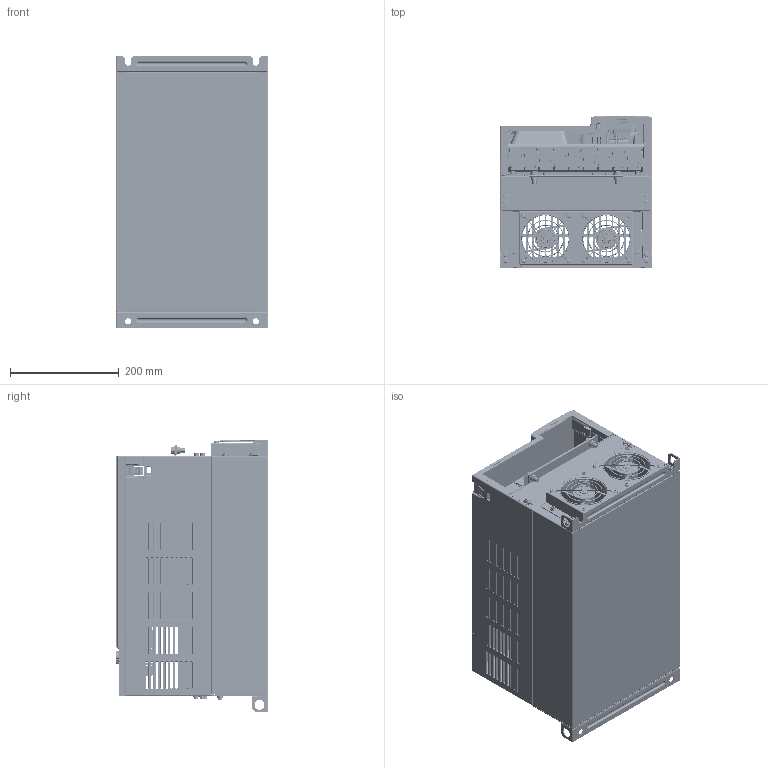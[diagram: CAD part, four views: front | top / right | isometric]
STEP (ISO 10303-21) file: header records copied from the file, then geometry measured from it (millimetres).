
FILE_DESCRIPTION((''),'2;1');
FILE_NAME('VFD-MH300-H-PD-3D00_ASM','2023-12-27T09:16:15',('EDWARD.LIAO'),(''),'CREO PARAMETRIC BY PTC INC, 2022162','CREO PARAMETRIC BY PTC INC, 2022162','');
FILE_SCHEMA(('AUTOMOTIVE_DESIGN { 1 0 10303 214 1 1 1 1 }'));
Products named in the file (119): MH300-FRAME-H_ASM_3_1; MH300-FRAME-H_ASM_4_1; MH300-FRAME-H_ASM_5_1; MH300-FRAME-H_ASM_6_1; MH300-FRAME-H_ASM_7_1; MH300-FRAME-H_ASM_8_1; MH300-FRAME-H_ASM_9_1; MH300-FRAME-H_ASM_10_1; MH300-FRAME-H_ASM_11_1; MH300-FRAME-H_ASM_12_1; MH300-FRAME-H_ASM_13_1; MH300-FRAME-H_ASM_14_1; MH300-FRAME-H_ASM_17_1; MH300-FRAME-H_ASM_18_1; MH300-FRAME-H_ASM_19_1; MH300-FRAME-H_ASM_20_1; MH300-FRAME-H_ASM_21_1; MH300-FRAME-H_ASM_22_1; MH300-FRAME-H_ASM_23_1; MH300-FRAME-H_ASM_24_1; MH300-FRAME-H_ASM_25_1; MH300-FRAME-H_ASM_26_1; MH300-FRAME-H_ASM_27_1; MH300-FRAME-H_ASM_28_1; MH300-FRAME-H_ASM_29_1; MH300-FRAME-H_ASM_30_1; MH300-FRAME-H_ASM_31_1; MH300-FRAME-H_ASM_32_1; MH300-FRAME-H_ASM_33_1; MH300-FRAME-H_ASM_34_1; MH300-FRAME-H_ASM_35_1; MH300-FRAME-H_ASM_36_1; MH300-FRAME-H_ASM_37_1; MH300-FRAME-H_ASM_39_1; MH300-FRAME-H_ASM_40_1; MH300-FRAME-H_ASM_41_1; MH300-FRAME-H_ASM_42_1; MH300-FRAME-H_ASM_43_1; MH300-FRAME-H_ASM_44_1_1; MH300-FRAME-H_ASM_44_1_2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
Assembly tree (118 placements, depth 4):
  VFD-MH300-H-PD-3D00_ASM
    CAD0000911276_ASM_1_ASM
      MH300-FRAME-H_ASM_3_1
      MH300-FRAME-H_ASM_4_1
      MH300-FRAME-H_ASM_5_1
      MH300-FRAME-H_ASM_6_1
      MH300-FRAME-H_ASM_7_1
      MH300-FRAME-H_ASM_8_1
      MH300-FRAME-H_ASM_9_1
      MH300-FRAME-H_ASM_10_1
      MH300-FRAME-H_ASM_11_1
      MH300-FRAME-H_ASM_12_1
      MH300-FRAME-H_ASM_13_1
      MH300-FRAME-H_ASM_14_1
      MH300-FRAME-H_ASM_17_1
      MH300-FRAME-H_ASM_18_1
      MH300-FRAME-H_ASM_19_1
      MH300-FRAME-H_ASM_20_1
      MH300-FRAME-H_ASM_21_1
      MH300-FRAME-H_ASM_22_1
      MH300-FRAME-H_ASM_23_1
      MH300-FRAME-H_ASM_24_1
      MH300-FRAME-H_ASM_25_1
      MH300-FRAME-H_ASM_26_1
      MH300-FRAME-H_ASM_27_1
      MH300-FRAME-H_ASM_28_1
      MH300-FRAME-H_ASM_29_1
      MH300-FRAME-H_ASM_30_1
      MH300-FRAME-H_ASM_31_1
      MH300-FRAME-H_ASM_32_1
      MH300-FRAME-H_ASM_33_1
      MH300-FRAME-H_ASM_34_1
      MH300-FRAME-H_ASM_35_1
      MH300-FRAME-H_ASM_36_1
      MH300-FRAME-H_ASM_37_1
      MH300-FRAME-H_ASM_39_1
      MH300-FRAME-H_ASM_40_1
      MH300-FRAME-H_ASM_41_1
      MH300-FRAME-H_ASM_42_1
      MH300-FRAME-H_ASM_43_1
      MH300-FRAME-H_ASM_44_1_ASM
        MH300-FRAME-H_ASM_44_1_1
        MH300-FRAME-H_ASM_44_1_2
      MH300-FRAME-H_ASM_45_1
      MH300-FRAME-H_ASM_46_1
      MH300-FRAME-H_ASM_47_1
      MH300-FRAME-H_ASM_48_1
      MH300-FRAME-H_ASM_49_1
      MH300-FRAME-H_ASM_50_1
      MH300-FRAME-H_ASM_51_1
      MH300-FRAME-H_ASM_52_1
      MH300-FRAME-H_ASM_53_1
      MH300-FRAME-H_ASM_54_1
      MH300-FRAME-H_ASM_55_1
      MH300-FRAME-H_ASM_56_1
      MH300-FRAME-H_ASM_59_1
      MH300-FRAME-H_ASM_60_1
      MH300-FRAME-H_ASM_61_1
      MH300-FRAME-H_ASM_62_1
      MH300-FRAME-H_ASM_63_1
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Bounding box: 280 x 280 x 500 mm (x, y, z)
Volume: 2196583.9 mm3; surface area: 2191009.3 mm2
Topology: 115 solids, 700 shells, 18791 faces, 57339 edges, 38904 vertices
Faces by surface type: plane 10429, cylinder 5238, torus 1258, cone 1166, bspline 563, sphere 117, revolution 16, extrusion 4
Entity records: 789109 total; most frequent: CARTESIAN_POINT 214225, ORIENTED_EDGE 102660, DIRECTION 100327, EDGE_CURVE 57256, VERTEX_POINT 38904, VECTOR 36738, LINE 36734, AXIS2_PLACEMENT_3D 31609
